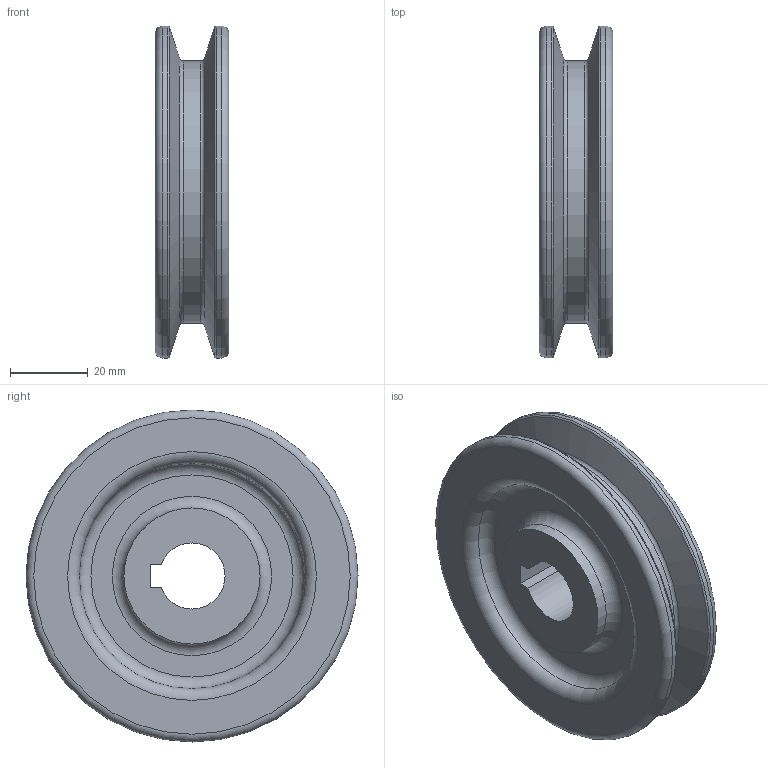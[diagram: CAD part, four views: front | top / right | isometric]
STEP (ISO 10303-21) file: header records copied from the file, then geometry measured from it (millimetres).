
FILE_DESCRIPTION(/* description */ (''),/* implementation_level */ '2;1');
FILE_NAME(/* name */ 'D:\381221E1013\381221E1013-벨트풀리.stp',/* time_stamp */ '2018-12-28T15:49:42+09:00',/* author */ ('HI'),/* organization */ (''),/* preprocessor_version */ 'ST-DEVELOPER v15.2',/* originating_system */ 'Autodesk Inventor 2014',/* authorisation */ '');
FILE_SCHEMA (('AUTOMOTIVE_DESIGN { 1 0 10303 214 3 1 1 }'));
Length unit declared in the file: millimetre
Products named in the file (1): Part4
Bounding box: 19 x 85.4 x 85.4 mm (x, y, z)
Volume: 64666.3 mm3; surface area: 21520.9 mm2
Topology: 1 solids, 1 shells, 29 faces, 55 edges, 32 vertices
Faces by surface type: torus 12, plane 9, cylinder 6, cone 2
Full cylindrical faces by diameter (mm): 35 x2, 67.4 x1, 85.4 x2
Entity records: 653 total; most frequent: DIRECTION 122, CARTESIAN_POINT 98, ORIENTED_EDGE 72, AXIS2_PLACEMENT_3D 56, EDGE_LOOP 54, EDGE_CURVE 36, VERTEX_POINT 32, ADVANCED_FACE 29
